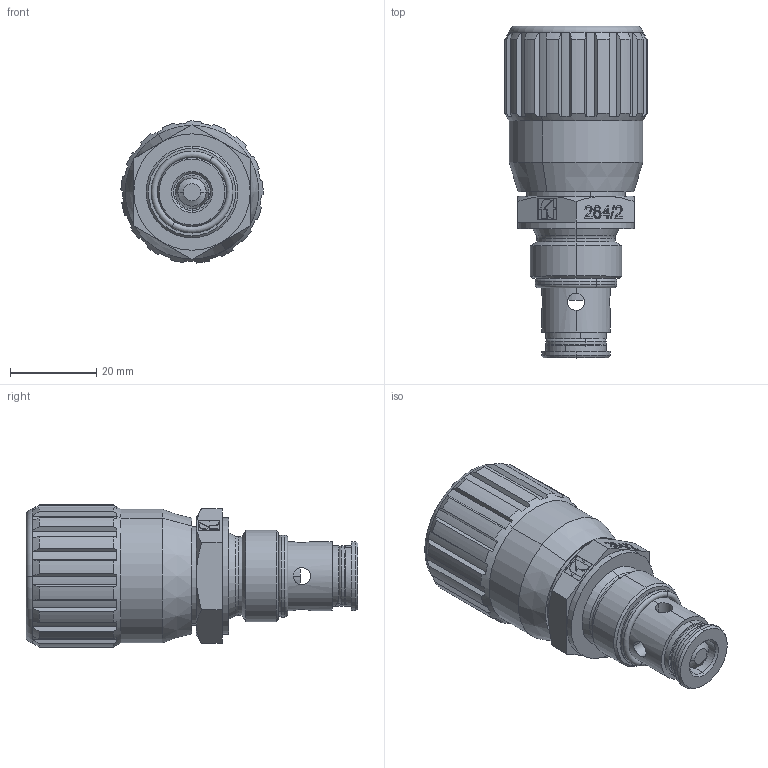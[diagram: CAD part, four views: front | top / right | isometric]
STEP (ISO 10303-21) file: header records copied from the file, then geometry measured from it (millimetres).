
FILE_DESCRIPTION (( 'STEP AP214' ), '1' );
FILE_NAME ('Assieme 264-2-38manopola.STEP', '2014-11-06T21:11:26', ( '' ), ( '' ), 'SwSTEP 2.0', 'SolidWorks 2014', '' );
FILE_SCHEMA (( 'AUTOMOTIVE_DESIGN' ));
Length unit declared in the file: millimetre
Products named in the file (1): Assieme 264-2-38manopola
Bounding box: 32.99 x 77 x 32.97 mm (x, y, z)
Surface area: 10984.6 mm2 (no closed solid volume)
Topology: 0 solids, 12 shells, 473 faces, 1403 edges, 925 vertices
Faces by surface type: plane 248, cylinder 98, bspline 65, cone 50, torus 12
Entity records: 25300 total; most frequent: CARTESIAN_POINT 8033, ORIENTED_EDGE 2532, DIRECTION 2247, EDGE_CURVE 1403, VERTEX_POINT 925, VECTOR 853, LINE 853, AXIS2_PLACEMENT_3D 697
